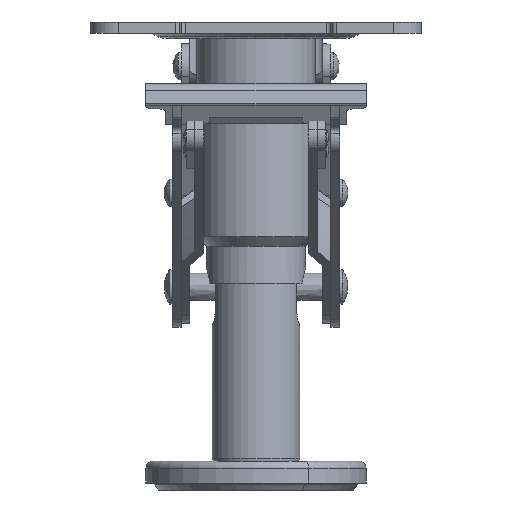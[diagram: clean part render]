
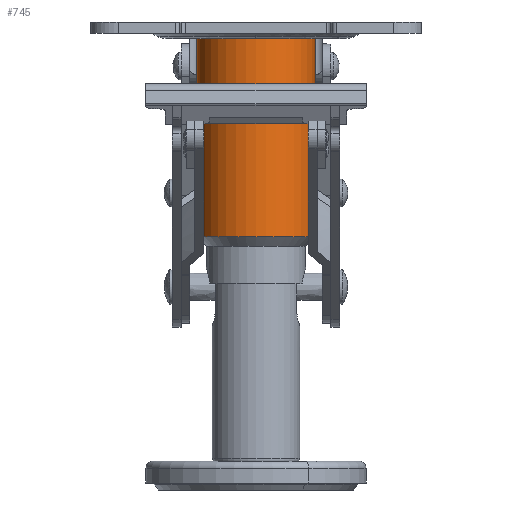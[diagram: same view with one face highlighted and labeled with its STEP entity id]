
A CAD part, front view. The second image highlights one B-rep face of the part: STEP entity #745.
In plain terms, the highlighted cylindrical face has radius 21.5 mm (diameter 43 mm), a full revolution.
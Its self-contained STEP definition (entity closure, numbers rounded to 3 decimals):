
#745 = ADVANCED_FACE( '', ( #1894, #1895 ), #1896, .T. );
#1894 = FACE_OUTER_BOUND( '', #3756, .T. );
#1895 = FACE_OUTER_BOUND( '', #3757, .T. );
#1896 = CYLINDRICAL_SURFACE( '', #3758, 21.5 );
#3756 = EDGE_LOOP( '', ( #8276 ) );
#3757 = EDGE_LOOP( '', ( #8277 ) );
#3758 = AXIS2_PLACEMENT_3D( '', #8278, #8279, #8280 );
#8276 = ORIENTED_EDGE( '', *, *, #12824, .T. );
#8277 = ORIENTED_EDGE( '', *, *, #12825, .F. );
#8278 = CARTESIAN_POINT( '', ( 0., 0., -47.5 ) );
#8279 = DIRECTION( '', ( 0., 0., -1. ) );
#8280 = DIRECTION( '', ( 0.479, -0.878, 0. ) );
#12824 = EDGE_CURVE( '', #14636, #14636, #14637, .T. );
#12825 = EDGE_CURVE( '', #14638, #14638, #14639, .T. );
#14636 = VERTEX_POINT( '', #17352 );
#14637 = CIRCLE( '', #17353, 21.5 );
#14638 = VERTEX_POINT( '', #17354 );
#14639 = CIRCLE( '', #17355, 21.5 );
#17352 = CARTESIAN_POINT( '', ( 21.5, 0., -78. ) );
#17353 = AXIS2_PLACEMENT_3D( '', #25029, #25030, #25031 );
#17354 = CARTESIAN_POINT( '', ( 21.5, 0., -2. ) );
#17355 = AXIS2_PLACEMENT_3D( '', #25032, #25033, #25034 );
#25029 = CARTESIAN_POINT( '', ( 0., 0., -78. ) );
#25030 = DIRECTION( '', ( 0., 0., 1. ) );
#25031 = DIRECTION( '', ( 1., 0., 0. ) );
#25032 = CARTESIAN_POINT( '', ( 0., 0., -2. ) );
#25033 = DIRECTION( '', ( 0., 0., 1. ) );
#25034 = DIRECTION( '', ( 1., 0., 0. ) );
